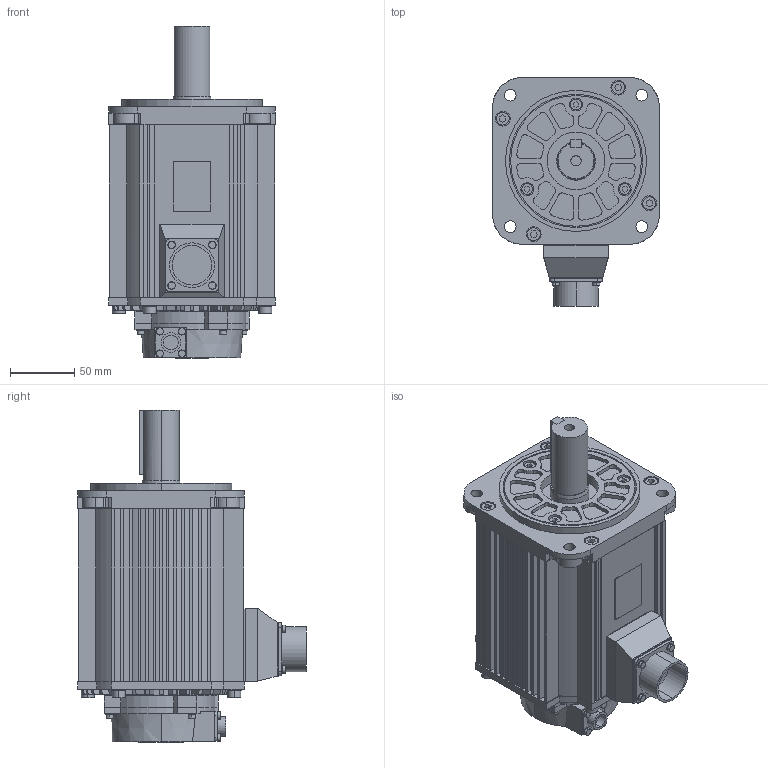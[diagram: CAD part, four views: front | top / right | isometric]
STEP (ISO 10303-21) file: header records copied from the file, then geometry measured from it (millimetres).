
FILE_DESCRIPTION (( 'STEP AP203' ), '1' );
FILE_NAME ('sgmsv_30__a61.STEP', '2009-09-22T00:17:43', ( 'T' ), ( 'T' ), 'SwSTEP 2.0', 'SolidWorks 2006052', '' );
FILE_SCHEMA (( 'CONFIG_CONTROL_DESIGN' ));
Length unit declared in the file: millimetre
Products named in the file (3): sgmsv_30__a61_base; sgmsv_30__a61; sgmsv_30__a61_key
Assembly tree (2 placements, depth 2):
  sgmsv_30__a61
    sgmsv_30__a61_key
    sgmsv_30__a61_base
Bounding box: 130 x 178.25 x 259.1 mm (x, y, z)
Volume: 2553510.4 mm3; surface area: 200734.3 mm2
Topology: 2 solids, 2 shells, 955 faces, 2544 edges, 1684 vertices
Faces by surface type: plane 641, cylinder 309, cone 5
Entity records: 30068 total; most frequent: CARTESIAN_POINT 5230, DIRECTION 5162, ORIENTED_EDGE 5088, EDGE_CURVE 2544, LINE 1840, VECTOR 1840, VERTEX_POINT 1684, AXIS2_PLACEMENT_3D 1661
